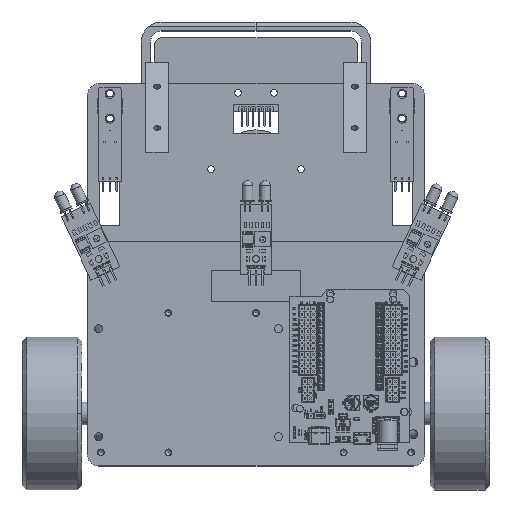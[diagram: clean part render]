
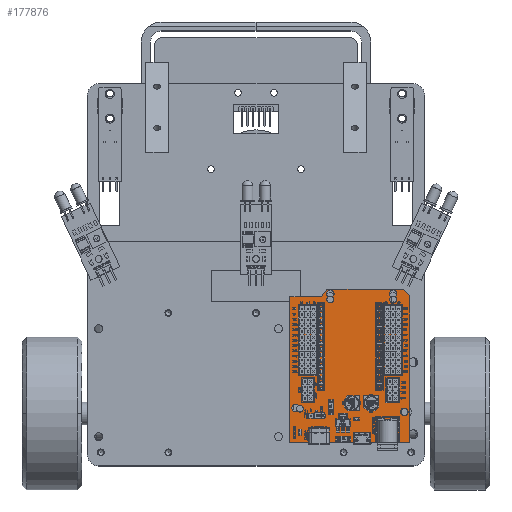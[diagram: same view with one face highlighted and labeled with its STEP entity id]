
A CAD part, top view. The second image highlights one B-rep face of the part: STEP entity #177876.
In plain terms, the highlighted planar face has unit normal (0, 0, 1) as drawn and (0, 1, 0) by its records, which use the part's own axes.
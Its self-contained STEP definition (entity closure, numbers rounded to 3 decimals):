
#4669=FACE_BOUND('',#26206,.T.);
#4670=FACE_BOUND('',#26207,.T.);
#4671=FACE_BOUND('',#26208,.T.);
#4672=FACE_BOUND('',#26209,.T.);
#6138=PLANE('',#190692);
#16073=FACE_OUTER_BOUND('',#26205,.T.);
#26205=EDGE_LOOP('',(#132643,#132644,#132645,#132646,#132647,#132648,#132649));
#26206=EDGE_LOOP('',(#132650,#132651));
#26207=EDGE_LOOP('',(#132652,#132653));
#26208=EDGE_LOOP('',(#132654));
#26209=EDGE_LOOP('',(#132655,#132656));
#36254=CIRCLE('',#190676,1.5);
#36256=CIRCLE('',#190679,1.5);
#36258=CIRCLE('',#190682,1.5);
#36259=CIRCLE('',#190684,1.7);
#36261=CIRCLE('',#190687,1.7);
#36263=CIRCLE('',#190690,1.7);
#36265=CIRCLE('',#190693,1.7);
#40469=LINE('',#264494,#62635);
#40470=LINE('',#264496,#62636);
#40471=LINE('',#264498,#62637);
#40472=LINE('',#264500,#62638);
#40473=LINE('',#264502,#62639);
#40474=LINE('',#264504,#62640);
#40475=LINE('',#264505,#62641);
#62635=VECTOR('',#207937,1000.);
#62636=VECTOR('',#207938,1000.);
#62637=VECTOR('',#207939,1000.);
#62638=VECTOR('',#207940,1000.);
#62639=VECTOR('',#207941,1000.);
#62640=VECTOR('',#207942,1000.);
#62641=VECTOR('',#207943,1000.);
#85382=VERTEX_POINT('',#264459);
#85383=VERTEX_POINT('',#264461);
#85386=VERTEX_POINT('',#264468);
#85387=VERTEX_POINT('',#264470);
#85390=VERTEX_POINT('',#264477);
#85391=VERTEX_POINT('',#264479);
#85392=VERTEX_POINT('',#264492);
#85393=VERTEX_POINT('',#264493);
#85394=VERTEX_POINT('',#264495);
#85395=VERTEX_POINT('',#264497);
#85396=VERTEX_POINT('',#264499);
#85397=VERTEX_POINT('',#264501);
#85398=VERTEX_POINT('',#264503);
#85399=VERTEX_POINT('',#264506);
#103975=EDGE_CURVE('',#85383,#85382,#36254,.T.);
#103979=EDGE_CURVE('',#85387,#85386,#36256,.T.);
#103983=EDGE_CURVE('',#85391,#85390,#36258,.T.);
#103985=EDGE_CURVE('',#85382,#85383,#36259,.T.);
#103987=EDGE_CURVE('',#85386,#85387,#36261,.T.);
#103989=EDGE_CURVE('',#85390,#85391,#36263,.T.);
#103991=EDGE_CURVE('',#85392,#85393,#40469,.T.);
#103992=EDGE_CURVE('',#85392,#85394,#40470,.T.);
#103993=EDGE_CURVE('',#85395,#85394,#40471,.T.);
#103994=EDGE_CURVE('',#85395,#85396,#40472,.T.);
#103995=EDGE_CURVE('',#85396,#85397,#40473,.T.);
#103996=EDGE_CURVE('',#85398,#85397,#40474,.T.);
#103997=EDGE_CURVE('',#85393,#85398,#40475,.T.);
#103998=EDGE_CURVE('',#85399,#85399,#36265,.T.);
#132643=ORIENTED_EDGE('',*,*,#103991,.F.);
#132644=ORIENTED_EDGE('',*,*,#103992,.T.);
#132645=ORIENTED_EDGE('',*,*,#103993,.F.);
#132646=ORIENTED_EDGE('',*,*,#103994,.T.);
#132647=ORIENTED_EDGE('',*,*,#103995,.T.);
#132648=ORIENTED_EDGE('',*,*,#103996,.F.);
#132649=ORIENTED_EDGE('',*,*,#103997,.F.);
#132650=ORIENTED_EDGE('',*,*,#103975,.T.);
#132651=ORIENTED_EDGE('',*,*,#103985,.T.);
#132652=ORIENTED_EDGE('',*,*,#103979,.T.);
#132653=ORIENTED_EDGE('',*,*,#103987,.T.);
#132654=ORIENTED_EDGE('',*,*,#103998,.T.);
#132655=ORIENTED_EDGE('',*,*,#103983,.T.);
#132656=ORIENTED_EDGE('',*,*,#103989,.T.);
#177876=ADVANCED_FACE('',(#16073,#4669,#4670,#4671,#4672),#6138,.F.);
#190676=AXIS2_PLACEMENT_3D('',#264462,#207898,#207899);
#190679=AXIS2_PLACEMENT_3D('',#264471,#207906,#207907);
#190682=AXIS2_PLACEMENT_3D('',#264480,#207914,#207915);
#190684=AXIS2_PLACEMENT_3D('',#264483,#207919,#207920);
#190687=AXIS2_PLACEMENT_3D('',#264486,#207925,#207926);
#190690=AXIS2_PLACEMENT_3D('',#264489,#207931,#207932);
#190692=AXIS2_PLACEMENT_3D('',#264491,#207935,#207936);
#190693=AXIS2_PLACEMENT_3D('',#264507,#207944,#207945);
#207898=DIRECTION('center_axis',(0.,-1.,0.));
#207899=DIRECTION('ref_axis',(-1.,0.,0.));
#207906=DIRECTION('center_axis',(0.,-1.,0.));
#207907=DIRECTION('ref_axis',(-1.,0.,0.));
#207914=DIRECTION('center_axis',(0.,-1.,0.));
#207915=DIRECTION('ref_axis',(-1.,0.,0.));
#207919=DIRECTION('center_axis',(0.,-1.,0.));
#207920=DIRECTION('ref_axis',(0.,0.,
-1.));
#207925=DIRECTION('center_axis',(0.,-1.,0.));
#207926=DIRECTION('ref_axis',(0.,0.,
-1.));
#207931=DIRECTION('center_axis',(0.,-1.,0.));
#207932=DIRECTION('ref_axis',(0.,0.,
-1.));
#207935=DIRECTION('center_axis',(0.,-1.,0.));
#207936=DIRECTION('ref_axis',(0.,0.,
-1.));
#207937=DIRECTION('',(0.,0.,1.));
#207938=DIRECTION('',(-0.662,0.,-0.75));
#207939=DIRECTION('',(1.,0.,0.));
#207940=DIRECTION('',(-0.592,0.,0.806));
#207941=DIRECTION('',(-1.,0.,0.));
#207942=DIRECTION('',(0.,0.,-1.));
#207943=DIRECTION('',(-1.,0.,0.));
#207944=DIRECTION('center_axis',(0.,-1.,0.));
#207945=DIRECTION('ref_axis',(0.,0.,
-1.));
#264459=CARTESIAN_POINT('',(-102.023,49.862,18.458));
#264461=CARTESIAN_POINT('',(-100.057,49.862,18.458));
#264462=CARTESIAN_POINT('Origin',(-101.04,49.862,19.591));
#264468=CARTESIAN_POINT('',(-74.063,49.862,18.458));
#264470=CARTESIAN_POINT('',(-72.097,49.862,18.458));
#264471=CARTESIAN_POINT('Origin',(-73.08,49.862,19.591));
#264477=CARTESIAN_POINT('',(-115.568,49.862,69.319));
#264479=CARTESIAN_POINT('',(-115.157,49.862,66.807));
#264480=CARTESIAN_POINT('Origin',(-114.58,49.862,68.191));
#264483=CARTESIAN_POINT('Origin',(-101.04,49.862,17.071));
#264486=CARTESIAN_POINT('Origin',(-73.08,49.862,17.071));
#264489=CARTESIAN_POINT('Origin',(-116.475,49.862,67.881));
#264491=CARTESIAN_POINT('Origin',(-92.28,49.862,49.171));
#264492=CARTESIAN_POINT('',(-65.58,49.862,18.472));
#264493=CARTESIAN_POINT('',(-65.58,49.862,83.271));
#264494=CARTESIAN_POINT('',(-65.58,49.862,83.271));
#264495=CARTESIAN_POINT('',(-68.58,49.862,15.071));
#264496=CARTESIAN_POINT('',(-68.58,49.862,15.071));
#264497=CARTESIAN_POINT('',(-102.54,49.862,15.071));
#264498=CARTESIAN_POINT('',(-118.98,49.862,15.071));
#264499=CARTESIAN_POINT('',(-105.04,49.862,18.472));
#264500=CARTESIAN_POINT('',(-105.04,49.862,18.472));
#264501=CARTESIAN_POINT('',(-118.98,49.862,18.472));
#264502=CARTESIAN_POINT('',(-118.98,49.862,18.472));
#264503=CARTESIAN_POINT('',(-118.98,49.862,83.271));
#264504=CARTESIAN_POINT('',(-118.98,49.862,83.271));
#264505=CARTESIAN_POINT('',(-118.98,49.862,83.271));
#264506=CARTESIAN_POINT('',(-68.08,49.862,67.891));
#264507=CARTESIAN_POINT('Origin',(-68.08,49.862,69.591));
